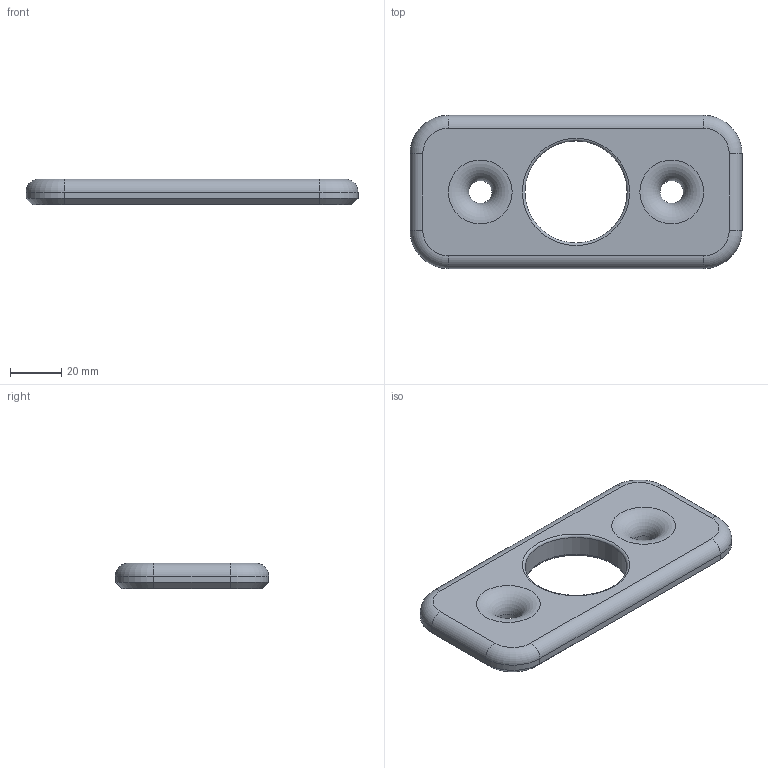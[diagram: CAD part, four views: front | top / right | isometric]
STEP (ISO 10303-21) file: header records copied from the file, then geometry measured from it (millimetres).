
FILE_DESCRIPTION(/* description */ ('STEP AP242 Edition 2','CAx-IF Rec.Pracs.---Representation and Presentation of Product Manufacturing Information (PMI)---4.0---2014-10-13','CAx-IF Rec.Pracs.---3D Tessellated Geometry---0.4---2014-09-14','2;1','CAx-IF Rec.Pracs.---User Defined Attributes---1.5---2016-08-15'),/* implementation_level */ '2;1');
FILE_NAME(/* name */ 'Assembly 1 - Part 6',/* time_stamp */ '2026-10-18T18:48:31Z',/* author */ (''),/* organization */ (''),/* preprocessor_version */ 'ST-DEVELOPER v20',/* originating_system */ 'ONSHAPE BY PTC INC, 1.222',/* authorisation */ ' ');
FILE_SCHEMA (('AP242_MANAGED_MODEL_BASED_3D_ENGINEERING_MIM_LF { 1 0 10303 442 3 1 4 }'));
Length unit declared in the file: metre
Products named in the file (1): Part 6
Bounding box: 130 x 60 x 10 mm (x, y, z)
Volume: 58136.7 mm3; surface area: 16268.1 mm2
Topology: 1 solids, 1 shells, 33 faces, 73 edges, 42 vertices
Faces by surface type: cylinder 11, plane 10, torus 8, cone 4
Full cylindrical faces by diameter (mm): 9 x2, 40 x1
Entity records: 900 total; most frequent: DIRECTION 168, CARTESIAN_POINT 142, ORIENTED_EDGE 132, AXIS2_PLACEMENT_3D 68, EDGE_CURVE 66, EDGE_LOOP 46, FACE_BOUND 46, VERTEX_POINT 42
